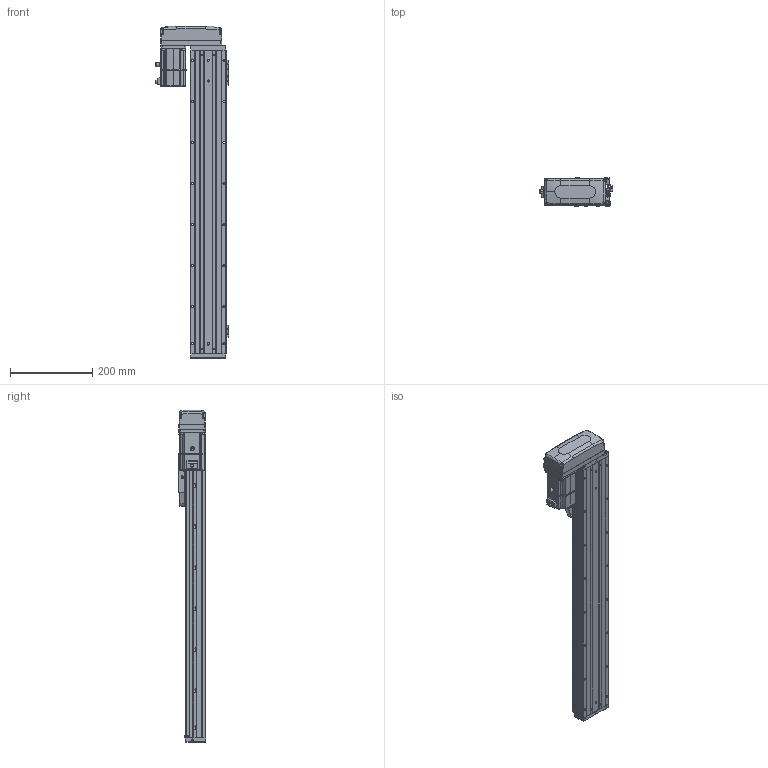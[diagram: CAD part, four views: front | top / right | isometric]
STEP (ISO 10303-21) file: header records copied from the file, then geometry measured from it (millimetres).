
FILE_DESCRIPTION (( 'STEP AP203' ), '1' );
FILE_NAME ('CTHA86-550-BR-M20-C4L.step', '2022-04-26T01:00:28', ( '微软用户' ), ( '微软中国' ), 'SwSTEP 2.0', 'SolidWorks 2020', '' );
FILE_SCHEMA (( 'CONFIG_CONTROL_DESIGN' ));
Length unit declared in the file: millimetre
Products named in the file (21): CTHA86-030; KTHA86-001_740; GBT 70.1-M3×16; GBT 70.3-M3℅6; KTHA86-004; GBT 70.1-M3℅6; CTHA86-015-1_CTHA86-015-2; KTHA86-005; CTHA60-016; CTHA86-033; GB¨uT 70.2-M3¡Á5_M3¡Á6; _X2_4E0983F1_X0_200W_1; CTHA86-550-BR-M20-C4L; EE_SX911P_R; GBT77-2000 M3×3; CTHA86-002; CTHA60-017; GBT 70.1-M3×20; CTHA86-031; CTHA60-021; GBT70.1 M5℅16
Assembly tree (66 placements, depth 2):
  CTHA86-550-BR-M20-C4L
    KTHA86-001_740
    KTHA86-004
    KTHA86-005
    GB¨uT 70.2-M3¡Á5_M3¡Á6  x10
    EE_SX911P_R  x3
    CTHA60-017  x3
    CTHA60-021  x2
    GBT77-2000 M3×3  x6
    GBT 70.1-M3×20
    GBT70.1 M5℅16  x14
    GBT 70.1-M3×16  x5
    GBT 70.1-M3℅6  x6
    CTHA60-016  x2
    _X2_4E0983F1_X0_200W_1
    CTHA86-002
    CTHA86-031
    CTHA86-030  x2
    GBT 70.3-M3℅6  x4
    CTHA86-015-1_CTHA86-015-2
    CTHA86-033
Bounding box: 178.52 x 68 x 809 mm (x, y, z)
Volume: 3274278.1 mm3; surface area: 569936 mm2
Topology: 68 solids, 68 shells, 2766 faces, 6596 edges, 4060 vertices
Faces by surface type: plane 1451, cylinder 717, cone 367, torus 132, bspline 75, sphere 24
Entity records: 48435 total; most frequent: CARTESIAN_POINT 9395, DIRECTION 7519, ORIENTED_EDGE 7292, EDGE_CURVE 3646, AXIS2_PLACEMENT_3D 2568, LINE 2383, VECTOR 2383, VERTEX_POINT 2292
